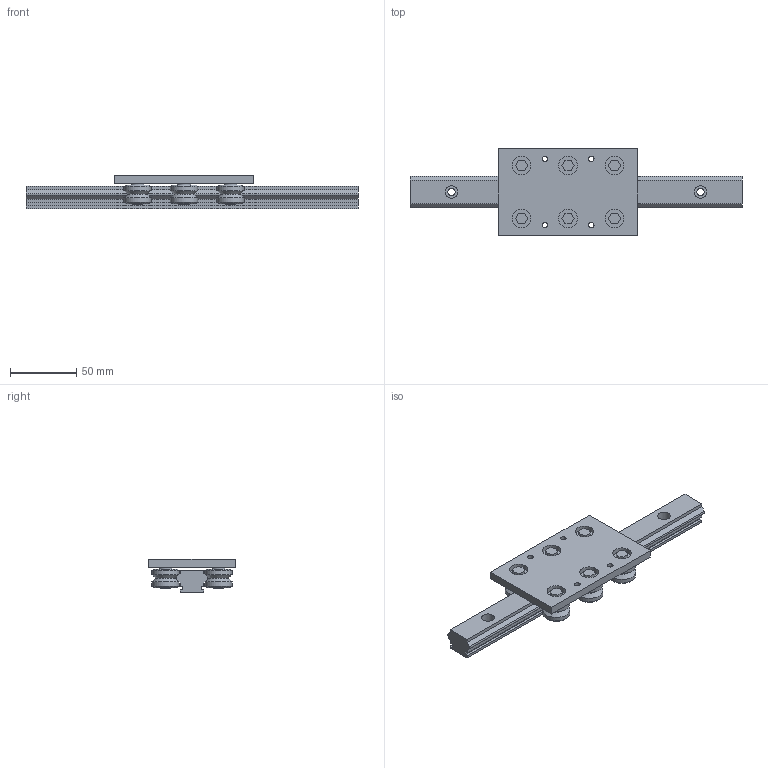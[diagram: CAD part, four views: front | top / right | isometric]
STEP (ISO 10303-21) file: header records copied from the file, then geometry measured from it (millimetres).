
FILE_DESCRIPTION((''),'2;1');
FILE_NAME('D:\製品 (図面)\カタログ用3D\リニアガイド関連\STEP形式\SPDR\SPDR25L.stp','2010-06-02T17:09:30',('Tsuchiya'),(''),'Autodesk Inventor 10','Autodesk Inventor 10','');
FILE_SCHEMA(('AUTOMOTIVE_DESIGN { 1 0 10303 214 1 1 1 1 }'));
Length unit declared in the file: millimetre
Products named in the file (3): SPDR25L; SPDR25L1; SPDR25L2
Assembly tree (2 placements, depth 2):
  SPDR25L
    SPDR25L1
    SPDR25L2
Bounding box: 250 x 65 x 25 mm (x, y, z)
Volume: 140277.7 mm3; surface area: 48833 mm2
Topology: 2 solids, 2 shells, 164 faces, 352 edges, 226 vertices
Faces by surface type: plane 86, cylinder 28, bspline 26, cone 24
Full cylindrical faces by diameter (mm): 4.134 x2, 8 x6, 10 x6, 20.5 x12
Entity records: 4364 total; most frequent: CARTESIAN_POINT 975, DIRECTION 674, ORIENTED_EDGE 564, EDGE_CURVE 282, EDGE_LOOP 280, AXIS2_PLACEMENT_3D 249, VERTEX_POINT 222, VECTOR 176
